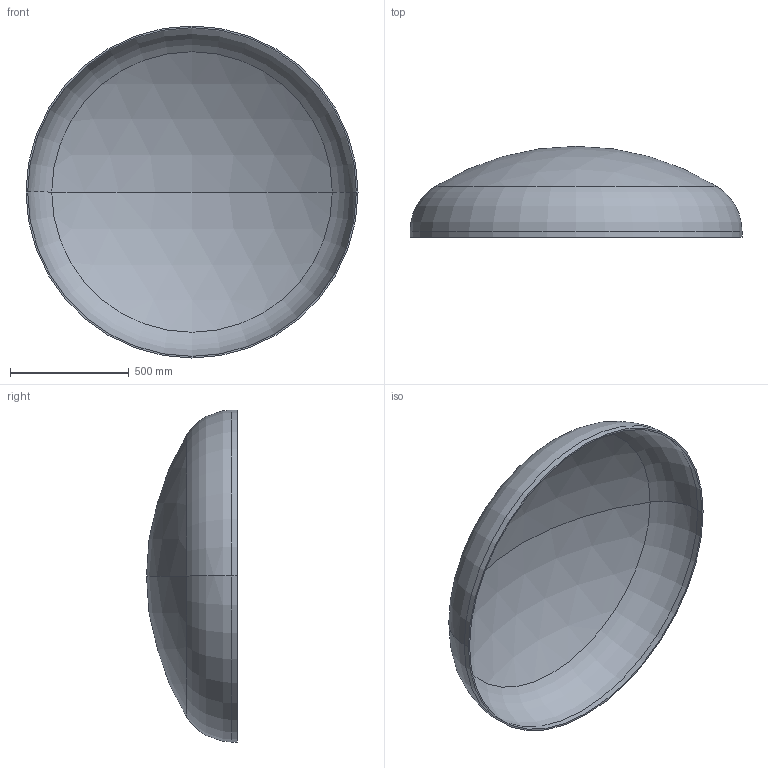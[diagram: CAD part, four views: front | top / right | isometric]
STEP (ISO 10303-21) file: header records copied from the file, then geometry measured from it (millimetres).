
FILE_DESCRIPTION (( 'STEP AP203' ), '1' );
FILE_NAME ('DIN 28013 Korbbogenform_-_Boden DIN 28013 - 1400 x 25 - I - s=7.step', '2016-07-01T10:06:24', ( '' ), ( '' ), 'SwSTEP 2.0', 'SolidWorks 2013', '' );
FILE_SCHEMA (( 'CONFIG_CONTROL_DESIGN' ));
Length unit declared in the file: millimetre
Products named in the file (1): DIN 28013 Korbbogenform_-_Boden DIN 28013 - 1400 x 25 - I - s=7
Bounding box: 1400 x 383.53 x 1400 mm (x, y, z)
Volume: 15584140.2 mm3; surface area: 4483346 mm2
Topology: 1 solids, 1 shells, 13 faces, 24 edges, 14 vertices
Faces by surface type: torus 4, cylinder 4, sphere 4, plane 1
Entity records: 407 total; most frequent: DIRECTION 72, CARTESIAN_POINT 52, ORIENTED_EDGE 48, AXIS2_PLACEMENT_3D 34, EDGE_CURVE 24, CIRCLE 20, EDGE_LOOP 14, VERTEX_POINT 14
